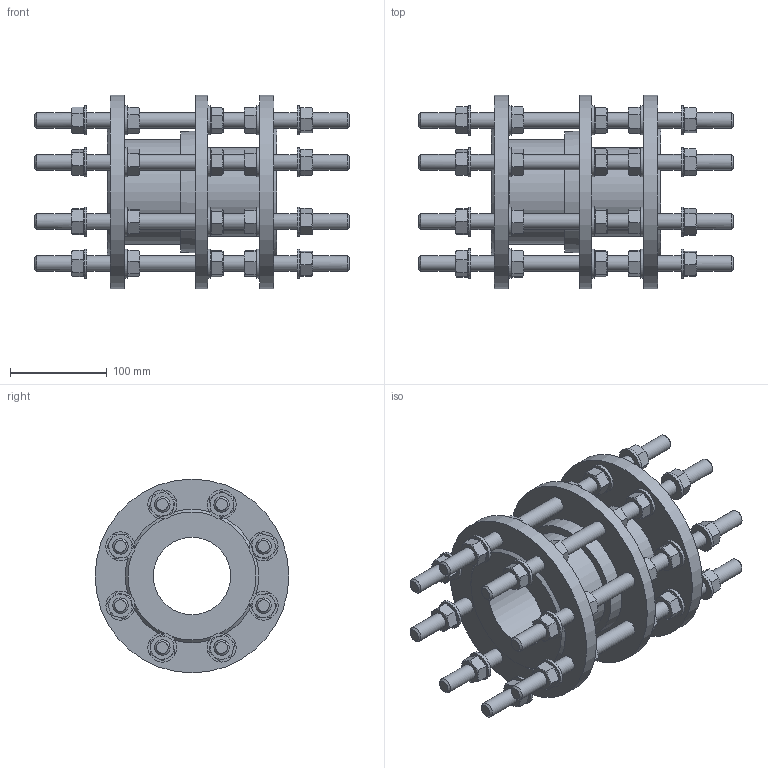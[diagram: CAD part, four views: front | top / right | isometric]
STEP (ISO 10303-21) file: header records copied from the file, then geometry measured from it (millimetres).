
FILE_DESCRIPTION (( 'STEP AP203' ), '1' );
FILE_NAME ('O_265_910_DN80_1XXXXX00_L=175_REV01.step', '2024-10-11T08:06:54', ( '' ), ( '' ), 'SwSTEP 2.0', 'SolidWorks 2022', '' );
FILE_SCHEMA (( 'CONFIG_CONTROL_DESIGN' ));
Length unit declared in the file: millimetre
Products named in the file (1): O_265_910_DN80_1XXXXX00_L=175_REV01
Bounding box: 325 x 200 x 200 mm (x, y, z)
Volume: 2248646 mm3; surface area: 406993.1 mm2
Topology: 1 solids, 1 shells, 1035 faces, 2265 edges, 1355 vertices
Faces by surface type: plane 640, cone 259, cylinder 136
Full cylindrical faces by diameter (mm): 16 x48, 24 x40, 30 x40, 80 x1, 92 x1, 108 x1, 200 x3
Entity records: 28494 total; most frequent: CARTESIAN_POINT 7241, DIRECTION 4367, ORIENTED_EDGE 4082, EDGE_CURVE 2041, AXIS2_PLACEMENT_3D 1770, EDGE_LOOP 1345, VERTEX_POINT 1284, FACE_OUTER_BOUND 1169
